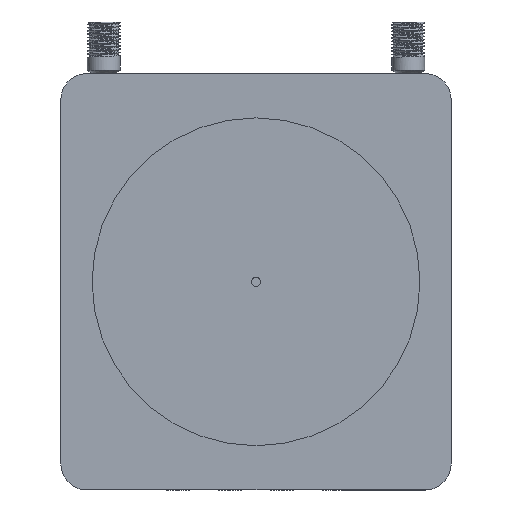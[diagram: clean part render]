
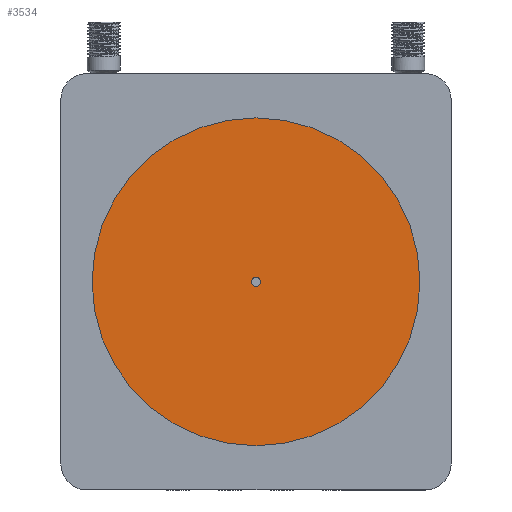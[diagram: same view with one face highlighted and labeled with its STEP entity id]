
A CAD part, front view. The second image highlights one B-rep face of the part: STEP entity #3534.
In plain terms, the highlighted planar face has unit normal (0, -1, 0) as drawn and (0, 1, 0) by its records, which use the part's own axes.
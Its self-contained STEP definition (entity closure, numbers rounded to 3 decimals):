
#1703 = DIRECTION ( 'NONE',  ( 0., 1., 0. ) ) ;
#1923 = EDGE_CURVE ( 'NONE', #36282, #39752, #12923, .T. ) ;
#2598 = ORIENTED_EDGE ( 'NONE', *, *, #26378, .F. ) ;
#3534 = ADVANCED_FACE ( 'NONE', ( #23677, #27427 ), #36675, .T. ) ;
#3738 = DIRECTION ( 'NONE',  ( 0., 0., 1. ) ) ;
#4763 = AXIS2_PLACEMENT_3D ( 'NONE', #31857, #1703, #8080 ) ;
#6660 = AXIS2_PLACEMENT_3D ( 'NONE', #18421, #32292, #21936 ) ;
#7299 = CARTESIAN_POINT ( 'NONE',  ( 0., 9.75, 0. ) ) ;
#7321 = CARTESIAN_POINT ( 'NONE',  ( 0., 9.75, 63. ) ) ;
#8080 = DIRECTION ( 'NONE',  ( 0., 0., 1. ) ) ;
#8731 = VERTEX_POINT ( 'NONE', #21054 ) ;
#12923 = CIRCLE ( 'NONE', #37537, 1.75 ) ;
#13250 = DIRECTION ( 'NONE',  ( 0., 0., 1. ) ) ;
#13934 = EDGE_LOOP ( 'NONE', ( #23426, #37148 ) ) ;
#14508 = DIRECTION ( 'NONE',  ( 0., 1., 0. ) ) ;
#17004 = CARTESIAN_POINT ( 'NONE',  ( 0., 9.75, -1.75 ) ) ;
#18421 = CARTESIAN_POINT ( 'NONE',  ( 0., 9.75, 0. ) ) ;
#18450 = CIRCLE ( 'NONE', #21275, 63. ) ;
#19829 = EDGE_CURVE ( 'NONE', #8731, #38789, #39923, .T. ) ;
#19967 = EDGE_LOOP ( 'NONE', ( #26238, #2598 ) ) ;
#20156 = DIRECTION ( 'NONE',  ( 0., 0., 1. ) ) ;
#21054 = CARTESIAN_POINT ( 'NONE',  ( 0., 9.75, -63. ) ) ;
#21275 = AXIS2_PLACEMENT_3D ( 'NONE', #7299, #43396, #13250 ) ;
#21936 = DIRECTION ( 'NONE',  ( 0., 0., 1. ) ) ;
#23426 = ORIENTED_EDGE ( 'NONE', *, *, #19829, .T. ) ;
#23677 = FACE_OUTER_BOUND ( 'NONE', #13934, .T. ) ;
#23766 = CARTESIAN_POINT ( 'NONE',  ( 0., 9.75, 0. ) ) ;
#23889 = CARTESIAN_POINT ( 'NONE',  ( 0., 9.75, 0. ) ) ;
#26238 = ORIENTED_EDGE ( 'NONE', *, *, #1923, .F. ) ;
#26378 = EDGE_CURVE ( 'NONE', #39752, #36282, #31262, .T. ) ;
#27427 = FACE_BOUND ( 'NONE', #19967, .T. ) ;
#30071 = EDGE_CURVE ( 'NONE', #38789, #8731, #18450, .T. ) ;
#31262 = CIRCLE ( 'NONE', #6660, 1.75 ) ;
#31857 = CARTESIAN_POINT ( 'NONE',  ( 0., 9.75, 0. ) ) ;
#32292 = DIRECTION ( 'NONE',  ( 0., 1., 0. ) ) ;
#36282 = VERTEX_POINT ( 'NONE', #17004 ) ;
#36457 = DIRECTION ( 'NONE',  ( 0., 1., 0. ) ) ;
#36675 = PLANE ( 'NONE',  #41220 ) ;
#37148 = ORIENTED_EDGE ( 'NONE', *, *, #30071, .T. ) ;
#37537 = AXIS2_PLACEMENT_3D ( 'NONE', #23766, #14508, #3738 ) ;
#38789 = VERTEX_POINT ( 'NONE', #7321 ) ;
#39752 = VERTEX_POINT ( 'NONE', #39800 ) ;
#39800 = CARTESIAN_POINT ( 'NONE',  ( 0., 9.75, 1.75 ) ) ;
#39923 = CIRCLE ( 'NONE', #4763, 63. ) ;
#41220 = AXIS2_PLACEMENT_3D ( 'NONE', #23889, #36457, #20156 ) ;
#43396 = DIRECTION ( 'NONE',  ( 0., 1., 0. ) ) ;
